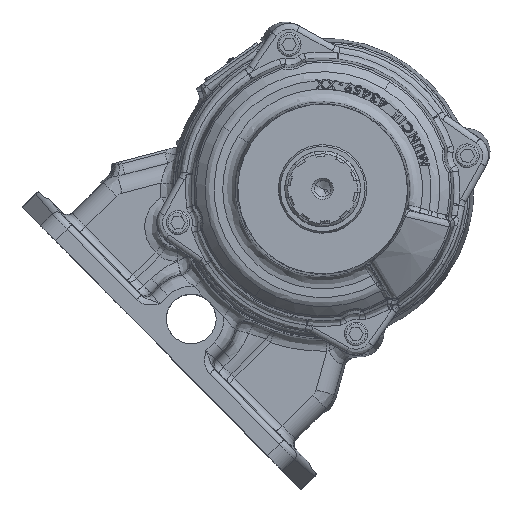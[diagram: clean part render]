
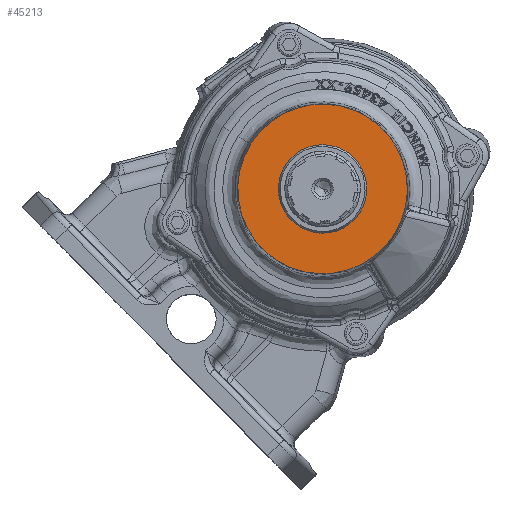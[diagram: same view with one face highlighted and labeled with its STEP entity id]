
A CAD part, top view. The second image highlights one B-rep face of the part: STEP entity #45213.
In plain terms, the highlighted planar face has unit normal (0, 0, 1) as drawn and (0, 0, -1) by its records, which use the part's own axes.
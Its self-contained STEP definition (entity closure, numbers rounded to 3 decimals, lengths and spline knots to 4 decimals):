
#169 = CIRCLE ( 'NONE', #91210, 1.6779 ) ;
#742 = CARTESIAN_POINT ( 'NONE',  ( -3.0676, 1.7088, -2.842 ) ) ;
#970 = AXIS2_PLACEMENT_3D ( 'NONE', #109142, #53370, #19485 ) ;
#1061 = CIRCLE ( 'NONE', #970, 0.875 ) ;
#1952 = AXIS2_PLACEMENT_3D ( 'NONE', #48258, #66091, #102325 ) ;
#2807 = CIRCLE ( 'NONE', #29303, 0.875 ) ;
#2862 = DIRECTION ( 'NONE',  ( 1., 0., 0. ) ) ;
#9866 = CARTESIAN_POINT ( 'NONE',  ( -3.0676, 2.5838, -2.842 ) ) ;
#10229 = CARTESIAN_POINT ( 'NONE',  ( -1.3898, 1.7088, -2.842 ) ) ;
#14060 = ORIENTED_EDGE ( 'NONE', *, *, #97118, .F. ) ;
#15178 = CIRCLE ( 'NONE', #1952, 1.6779 ) ;
#16818 = PLANE ( 'NONE',  #54816 ) ;
#19485 = DIRECTION ( 'NONE',  ( 0., 1., 0. ) ) ;
#29303 = AXIS2_PLACEMENT_3D ( 'NONE', #109861, #54043, #90284 ) ;
#30765 = DIRECTION ( 'NONE',  ( 0., 0., -1. ) ) ;
#32524 = EDGE_LOOP ( 'NONE', ( #51455, #58604 ) ) ;
#45213 = ADVANCED_FACE ( 'NONE', ( #107045, #70835 ), #16818, .T. ) ;
#48258 = CARTESIAN_POINT ( 'NONE',  ( -3.0676, 1.7088, -2.842 ) ) ;
#48298 = EDGE_CURVE ( 'NONE', #101149, #73290, #169, .T. ) ;
#51455 = ORIENTED_EDGE ( 'NONE', *, *, #64565, .T. ) ;
#53370 = DIRECTION ( 'NONE',  ( 0., 0., -1. ) ) ;
#54043 = DIRECTION ( 'NONE',  ( 0., 0., -1. ) ) ;
#54816 = AXIS2_PLACEMENT_3D ( 'NONE', #742, #117136, #90991 ) ;
#58604 = ORIENTED_EDGE ( 'NONE', *, *, #48298, .T. ) ;
#61549 = CARTESIAN_POINT ( 'NONE',  ( -4.7455, 1.7088, -2.842 ) ) ;
#64565 = EDGE_CURVE ( 'NONE', #73290, #101149, #15178, .T. ) ;
#66091 = DIRECTION ( 'NONE',  ( 0., 0., -1. ) ) ;
#66545 = CARTESIAN_POINT ( 'NONE',  ( -3.0676, 0.8338, -2.842 ) ) ;
#70835 = FACE_OUTER_BOUND ( 'NONE', #32524, .T. ) ;
#71794 = EDGE_LOOP ( 'NONE', ( #88744, #14060 ) ) ;
#73290 = VERTEX_POINT ( 'NONE', #10229 ) ;
#73883 = VERTEX_POINT ( 'NONE', #66545 ) ;
#75882 = CARTESIAN_POINT ( 'NONE',  ( -3.0676, 1.7088, -2.842 ) ) ;
#87302 = EDGE_CURVE ( 'NONE', #73883, #96415, #2807, .T. ) ;
#88744 = ORIENTED_EDGE ( 'NONE', *, *, #87302, .F. ) ;
#90284 = DIRECTION ( 'NONE',  ( 0., 1., 0. ) ) ;
#90991 = DIRECTION ( 'NONE',  ( 0., 1., 0. ) ) ;
#91210 = AXIS2_PLACEMENT_3D ( 'NONE', #75882, #30765, #2862 ) ;
#96415 = VERTEX_POINT ( 'NONE', #9866 ) ;
#97118 = EDGE_CURVE ( 'NONE', #96415, #73883, #1061, .T. ) ;
#101149 = VERTEX_POINT ( 'NONE', #61549 ) ;
#102325 = DIRECTION ( 'NONE',  ( 1., 0., 0. ) ) ;
#107045 = FACE_BOUND ( 'NONE', #71794, .T. ) ;
#109142 = CARTESIAN_POINT ( 'NONE',  ( -3.0676, 1.7088, -2.842 ) ) ;
#109861 = CARTESIAN_POINT ( 'NONE',  ( -3.0676, 1.7088, -2.842 ) ) ;
#117136 = DIRECTION ( 'NONE',  ( 0., 0., -1. ) ) ;
